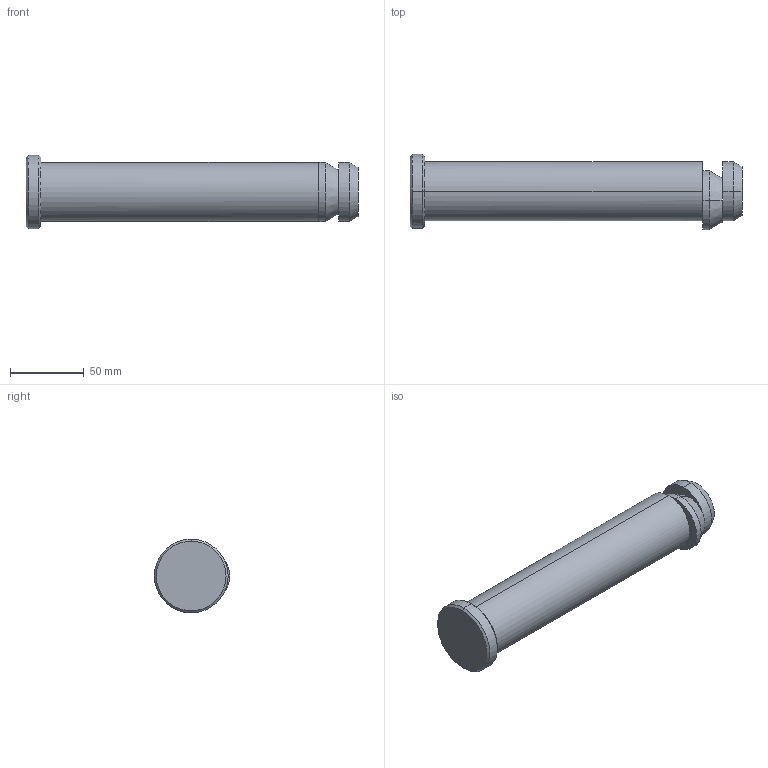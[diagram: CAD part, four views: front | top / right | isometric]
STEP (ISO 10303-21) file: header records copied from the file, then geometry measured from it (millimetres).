
FILE_DESCRIPTION(('CATIA V5 STEP Exchange'),'2;1');
FILE_NAME('C:\Users\Raffaele\Desktop\3D X SITO CF\PERNI -STAFFE SOLLEVAMENTO\395W\RCM_B021032 (1)\395W-040-225.stp','2019-07-05T10:12:25+00:00',('none'),('none'),'CATIA Version 5 Release 20 GA (IN-10)','CATIA V5 STEP AP203','none');
FILE_SCHEMA(('CONFIG_CONTROL_DESIGN'));
Length unit declared in the file: millimetre
Products named in the file (1): 395W-040-225
Bounding box: 225 x 51 x 50 mm (x, y, z)
Volume: 284589.2 mm3; surface area: 35970.9 mm2
Topology: 1 solids, 1 shells, 27 faces, 84 edges, 64 vertices
Faces by surface type: cylinder 12, cone 8, plane 7
Entity records: 1088 total; most frequent: CARTESIAN_POINT 288, ORIENTED_EDGE 168, DIRECTION 130, AXIS2_PLACEMENT_3D 84, EDGE_CURVE 84, VERTEX_POINT 64, CIRCLE 56, EDGE_LOOP 32
